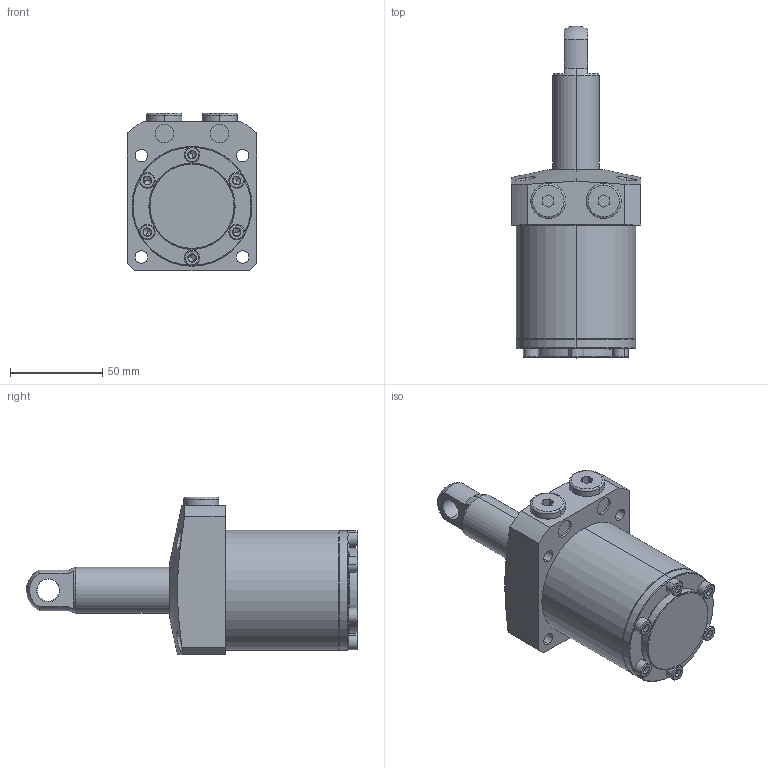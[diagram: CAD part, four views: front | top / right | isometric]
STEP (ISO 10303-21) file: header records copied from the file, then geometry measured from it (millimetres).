
FILE_DESCRIPTION (( 'STEP AP203' ), '1' );
FILE_NAME ('680650-CP-055.step', '2016-11-02T03:25:51', ( 'wxp' ), ( '' ), 'SwSTEP 2.0', 'SolidWorks 2011', '' );
FILE_SCHEMA (( 'CONFIG_CONTROL_DESIGN' ));
Length unit declared in the file: millimetre
Products named in the file (6): 680650-CP-055; 葩璃 680650-CA-15-14^680650-CP-055; 葩璃 68065-CA-15-5^680650-CP-055; 葩璃 68065-CA-15-4^680650-CP-055; 葩璃 68065-CA-15-3^680650-CP-055; 葩璃 68065-CA-15-1^680650-CP-055
Assembly tree (11 placements, depth 2):
  680650-CP-055
    葩璃 68065-CA-15-4^680650-CP-055  x6
    葩璃 68065-CA-15-3^680650-CP-055
    葩璃 68065-CA-15-5^680650-CP-055  x2
    葩璃 68065-CA-15-1^680650-CP-055
    葩璃 680650-CA-15-14^680650-CP-055
Bounding box: 70 x 180 x 85.5 mm (x, y, z)
Volume: 404400.1 mm3; surface area: 56754.2 mm2
Topology: 11 solids, 11 shells, 342 faces, 672 edges, 368 vertices
Faces by surface type: plane 137, cone 96, cylinder 91, torus 16, sphere 2
Entity records: 5638 total; most frequent: CARTESIAN_POINT 1183, DIRECTION 853, ORIENTED_EDGE 692, AXIS2_PLACEMENT_3D 358, EDGE_CURVE 346, VERTEX_POINT 211, EDGE_LOOP 199, CIRCLE 183
